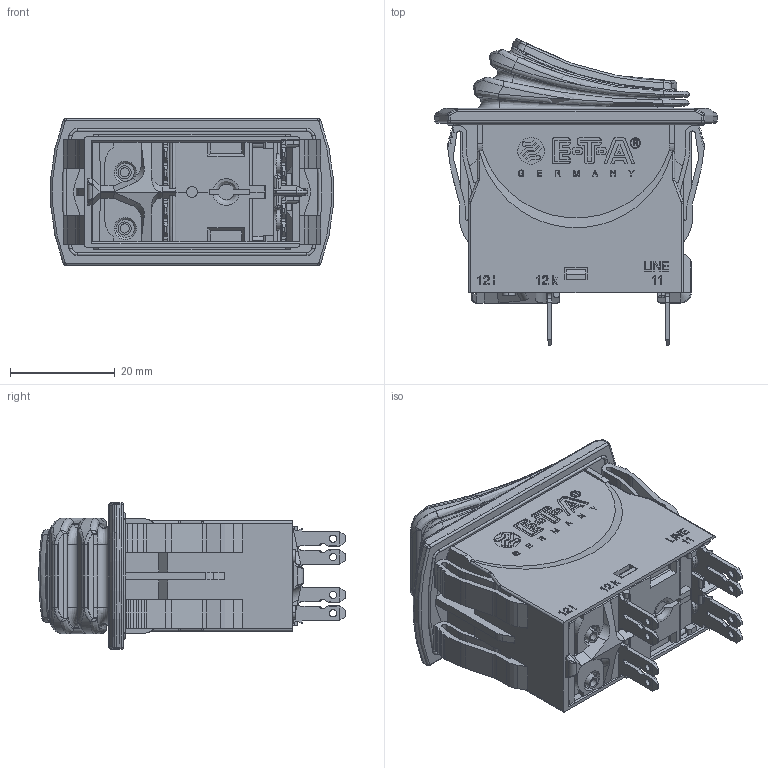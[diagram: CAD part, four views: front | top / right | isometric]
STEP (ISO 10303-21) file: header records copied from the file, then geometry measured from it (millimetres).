
FILE_DESCRIPTION((''),'2;1');
FILE_NAME('DUMMY-3120-N524-P7','2019-08-06T12:46:24',('wschmidt'),(''),'CREO PARAMETRIC BY PTC INC, 2017260','CREO PARAMETRIC BY PTC INC, 2017260','');
FILE_SCHEMA(('AUTOMOTIVE_DESIGN { 1 0 10303 214 1 1 1 1 }'));
Products named in the file (1): DUMMY-3120-N524-P7
Bounding box: 53.8 x 58.37 x 28 mm (x, y, z)
Volume: 30722 mm3; surface area: 24811.5 mm2
Topology: 1 solids, 2 shells, 2241 faces, 6073 edges, 3913 vertices
Faces by surface type: plane 1178, cylinder 450, extrusion 306, bspline 182, torus 80, sphere 28, cone 17
Entity records: 105615 total; most frequent: CARTESIAN_POINT 51387, ORIENTED_EDGE 12144, DIRECTION 9423, EDGE_CURVE 6072, VECTOR 4161, VERTEX_POINT 3913, LINE 3855, AXIS2_PLACEMENT_3D 2631
